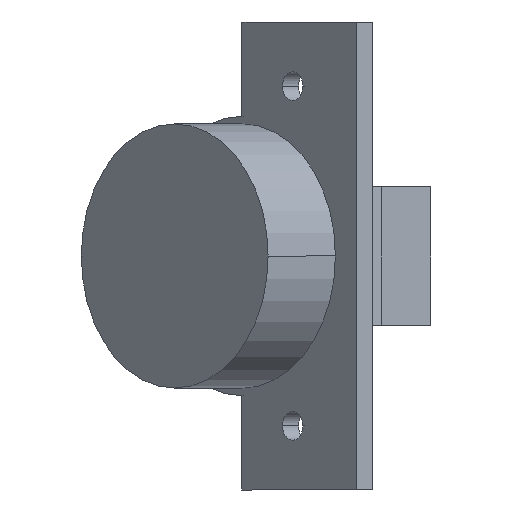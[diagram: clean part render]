
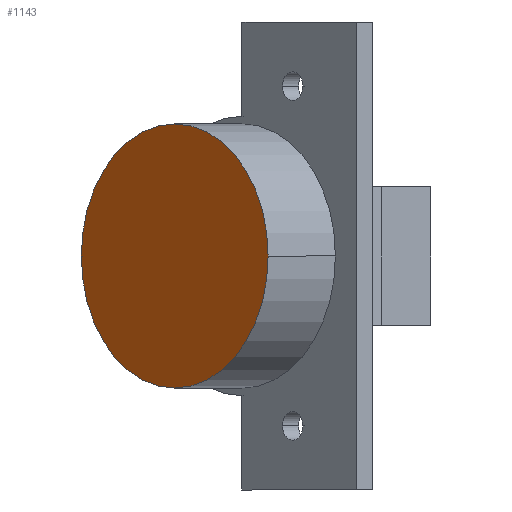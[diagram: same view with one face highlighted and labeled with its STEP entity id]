
A CAD part, front view. The second image highlights one B-rep face of the part: STEP entity #1143.
In plain terms, the highlighted planar face has unit normal (-0.707, -0.707, 0).
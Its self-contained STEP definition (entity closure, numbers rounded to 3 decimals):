
#163 = ORIENTED_EDGE ( 'NONE', *, *, #1392, .T. ) ;
#203 = EDGE_LOOP ( 'NONE', ( #301, #163 ) ) ;
#301 = ORIENTED_EDGE ( 'NONE', *, *, #1514, .T. ) ;
#365 = FACE_OUTER_BOUND ( 'NONE', #203, .T. ) ;
#415 = CIRCLE ( 'NONE', #1574, 17.5 ) ;
#468 = VERTEX_POINT ( 'NONE', #559 ) ;
#469 = VERTEX_POINT ( 'NONE', #560 ) ;
#559 = CARTESIAN_POINT ( 'NONE',  ( 20.065, -21.284, 0. ) ) ;
#560 = CARTESIAN_POINT ( 'NONE',  ( -4.684, 3.465, 0. ) ) ;
#705 = PLANE ( 'NONE',  #1541 ) ;
#708 = CARTESIAN_POINT ( 'NONE',  ( 7.69, -8.91, 0. ) ) ;
#717 = DIRECTION ( 'NONE',  ( -0.707, -0.707, 0. ) ) ;
#718 = DIRECTION ( 'NONE',  ( 0.707, -0.707, 0. ) ) ;
#832 = CARTESIAN_POINT ( 'NONE',  ( 7.69, -8.91, 0. ) ) ;
#834 = DIRECTION ( 'NONE',  ( -0.707, -0.707, 0. ) ) ;
#835 = DIRECTION ( 'NONE',  ( 0.707, -0.707, 0. ) ) ;
#1090 = CARTESIAN_POINT ( 'NONE',  ( 7.69, -8.91, 0. ) ) ;
#1098 = DIRECTION ( 'NONE',  ( -0.707, -0.707, 0. ) ) ;
#1099 = DIRECTION ( 'NONE',  ( 0.707, -0.707, 0. ) ) ;
#1143 = ADVANCED_FACE ( 'NONE', ( #365 ), #705, .T. ) ;
#1177 = CIRCLE ( 'NONE', #1591, 17.5 ) ;
#1392 = EDGE_CURVE ( 'NONE', #468, #469, #415, .T. ) ;
#1514 = EDGE_CURVE ( 'NONE', #469, #468, #1177, .T. ) ;
#1541 = AXIS2_PLACEMENT_3D ( 'NONE', #708, #717, #718 ) ;
#1574 = AXIS2_PLACEMENT_3D ( 'NONE', #832, #834, #835 ) ;
#1591 = AXIS2_PLACEMENT_3D ( 'NONE', #1090, #1098, #1099 ) ;
